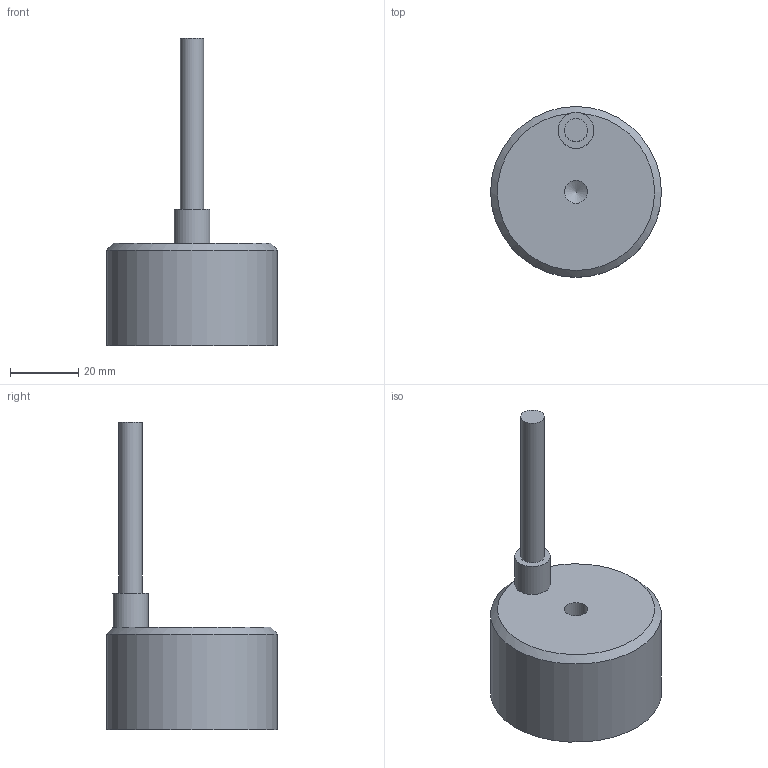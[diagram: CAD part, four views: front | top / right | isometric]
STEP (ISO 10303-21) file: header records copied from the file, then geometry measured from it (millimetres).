
FILE_DESCRIPTION(/* description */ (''),/* implementation_level */ '2;1');
FILE_NAME(/* name */ 'EMH-1-50Dx30H-V-DC24V.step',/* time_stamp */ '2023-12-15T11:46:36+09:00',/* author */ (''),/* organization */ (''),/* preprocessor_version */ 'ST-DEVELOPER v20',/* originating_system */ 'Autodesk Translation Framework v12.14.0.127',/* authorisation */ '');
FILE_SCHEMA (('AUTOMOTIVE_DESIGN { 1 0 10303 214 3 1 1 }'));
Length unit declared in the file: millimetre
Products named in the file (3): EMH-1-50Dx30H-V-DC24V; BODY; Cable
Assembly tree (2 placements, depth 2):
  EMH-1-50Dx30H-V-DC24V
    BODY
    Cable
Bounding box: 50 x 50 x 90 mm (x, y, z)
Volume: 60453.5 mm3; surface area: 10287.7 mm2
Topology: 2 solids, 2 shells, 16 faces, 27 edges, 17 vertices
Faces by surface type: plane 8, cylinder 6, cone 2
Full cylindrical faces by diameter (mm): 6.779 x1, 6.8 x1, 10.5 x1, 19 x1, 45 x1, 50 x1
Entity records: 496 total; most frequent: DIRECTION 86, CARTESIAN_POINT 64, ORIENTED_EDGE 52, AXIS2_PLACEMENT_3D 39, EDGE_CURVE 26, EDGE_LOOP 19, CIRCLE 18, VERTEX_POINT 17
